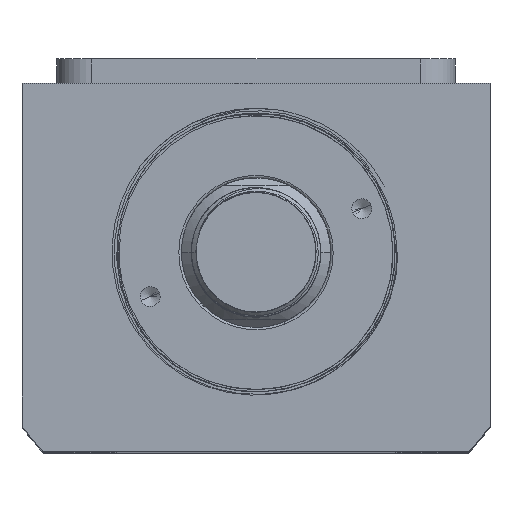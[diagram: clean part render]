
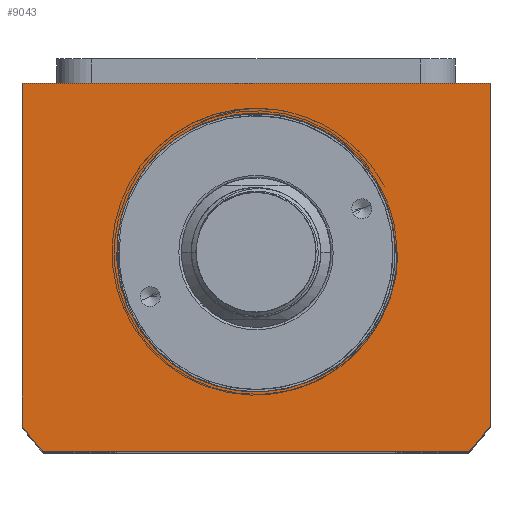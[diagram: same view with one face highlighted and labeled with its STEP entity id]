
A CAD part, top view. The second image highlights one B-rep face of the part: STEP entity #9043.
In plain terms, the highlighted planar face has unit normal (0, 0, 1).
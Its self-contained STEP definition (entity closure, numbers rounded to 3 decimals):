
#253 = DIRECTION ( 'NONE',  ( 0., 0., -1. ) ) ;
#271 = AXIS2_PLACEMENT_3D ( 'NONE', #4732, #253, #13652 ) ;
#431 = DIRECTION ( 'NONE',  ( 0., -1., 0. ) ) ;
#627 = LINE ( 'NONE', #18620, #9036 ) ;
#753 = DIRECTION ( 'NONE',  ( 0., 0., 1. ) ) ;
#904 = CARTESIAN_POINT ( 'NONE',  ( 28.449, -1.419, 80. ) ) ;
#968 = CARTESIAN_POINT ( 'NONE',  ( 27.555, -6.99, 80. ) ) ;
#1206 = CARTESIAN_POINT ( 'NONE',  ( 22.571, -17.007, 80. ) ) ;
#1264 = CARTESIAN_POINT ( 'NONE',  ( 18.667, -21.077, 80. ) ) ;
#1702 = ORIENTED_EDGE ( 'NONE', *, *, #14318, .T. ) ;
#1836 = VERTEX_POINT ( 'NONE', #5655 ) ;
#2182 = DIRECTION ( 'NONE',  ( 1., 0., 0. ) ) ;
#2247 = DIRECTION ( 'NONE',  ( 1., 0., 0. ) ) ;
#2743 = CARTESIAN_POINT ( 'NONE',  ( -47., -34.832, 80. ) ) ;
#3137 = VERTEX_POINT ( 'NONE', #16948 ) ;
#3555 = DIRECTION ( 'NONE',  ( 0., 0., 1. ) ) ;
#3571 = FACE_BOUND ( 'NONE', #6131, .T. ) ;
#3594 = DIRECTION ( 'NONE',  ( -1., 0., 0. ) ) ;
#3752 = CARTESIAN_POINT ( 'NONE',  ( 26.694, -9.657, 80. ) ) ;
#3770 = PLANE ( 'NONE',  #11697 ) ;
#3829 = DIRECTION ( 'NONE',  ( 0., 1., 0. ) ) ;
#4020 = ORIENTED_EDGE ( 'NONE', *, *, #13150, .T. ) ;
#4060 = CIRCLE ( 'NONE', #271, 28. ) ;
#4065 = CARTESIAN_POINT ( 'NONE',  ( 12.831, -24.945, 80. ) ) ;
#4131 = CARTESIAN_POINT ( 'NONE',  ( 10.89, -25.816, 80. ) ) ;
#4247 = CARTESIAN_POINT ( 'NONE',  ( 11.542, -25.544, 80. ) ) ;
#4278 = VERTEX_POINT ( 'NONE', #13377 ) ;
#4348 = ORIENTED_EDGE ( 'NONE', *, *, #17430, .F. ) ;
#4559 = LINE ( 'NONE', #5247, #18720 ) ;
#4732 = CARTESIAN_POINT ( 'NONE',  ( 0., 0., 80. ) ) ;
#4884 = AXIS2_PLACEMENT_3D ( 'NONE', #17373, #753, #2247 ) ;
#5056 = CARTESIAN_POINT ( 'NONE',  ( 42.688, -40., 80. ) ) ;
#5097 = VERTEX_POINT ( 'NONE', #5056 ) ;
#5247 = CARTESIAN_POINT ( 'NONE',  ( 0., 0., 80. ) ) ;
#5272 = DIRECTION ( 'NONE',  ( 0., 0., 1. ) ) ;
#5426 = ORIENTED_EDGE ( 'NONE', *, *, #17661, .T. ) ;
#5452 = CARTESIAN_POINT ( 'NONE',  ( 47., 34., 80. ) ) ;
#5655 = CARTESIAN_POINT ( 'NONE',  ( 28., 0., 80. ) ) ;
#5896 = VERTEX_POINT ( 'NONE', #16071 ) ;
#6131 = EDGE_LOOP ( 'NONE', ( #4348, #1702, #17140 ) ) ;
#6578 = EDGE_CURVE ( 'NONE', #19465, #5896, #13674, .T. ) ;
#6782 = CIRCLE ( 'NONE', #4884, 58.5 ) ;
#6784 = DIRECTION ( 'NONE',  ( 1., 0., 0. ) ) ;
#6981 = EDGE_CURVE ( 'NONE', #10275, #19465, #15326, .T. ) ;
#7273 = CARTESIAN_POINT ( 'NONE',  ( 18.129, -21.529, 80. ) ) ;
#7667 = VERTEX_POINT ( 'NONE', #10774 ) ;
#7980 = VECTOR ( 'NONE', #3829, 1000. ) ;
#8412 = CARTESIAN_POINT ( 'NONE',  ( 28.323, -2.832, 80. ) ) ;
#8539 = CARTESIAN_POINT ( 'NONE',  ( 28.233, -3.538, 80. ) ) ;
#8658 = CARTESIAN_POINT ( 'NONE',  ( 13.459, -24.624, 80. ) ) ;
#9036 = VECTOR ( 'NONE', #431, 1000. ) ;
#9043 = ADVANCED_FACE ( 'NONE', ( #3571, #16534 ), #3770, .T. ) ;
#9279 = VECTOR ( 'NONE', #2182, 1000. ) ;
#9504 = CARTESIAN_POINT ( 'NONE',  ( -47., 34., 80. ) ) ;
#10104 = EDGE_LOOP ( 'NONE', ( #17013, #18732, #15768, #5426, #4020, #13525 ) ) ;
#10135 = CARTESIAN_POINT ( 'NONE',  ( 24.178, -14.712, 80. ) ) ;
#10275 = VERTEX_POINT ( 'NONE', #17429 ) ;
#10495 = EDGE_CURVE ( 'NONE', #11321, #4278, #19310, .T. ) ;
#10774 = CARTESIAN_POINT ( 'NONE',  ( 10.232, -26.064, 80. ) ) ;
#11321 = VERTEX_POINT ( 'NONE', #2743 ) ;
#11697 = AXIS2_PLACEMENT_3D ( 'NONE', #14324, #5272, #6784 ) ;
#12506 = VECTOR ( 'NONE', #3594, 1000. ) ;
#12573 = CARTESIAN_POINT ( 'NONE',  ( 0., 0., 80. ) ) ;
#12691 = CARTESIAN_POINT ( 'NONE',  ( 42.688, -40., 80. ) ) ;
#12779 = CARTESIAN_POINT ( 'NONE',  ( 28.495, 0., 80. ) ) ;
#12840 = DIRECTION ( 'NONE',  ( -1., 0., 0. ) ) ;
#12915 = CARTESIAN_POINT ( 'NONE',  ( 28.485, -0.71, 80. ) ) ;
#13150 = EDGE_CURVE ( 'NONE', #5097, #10275, #6782, .T. ) ;
#13212 = CARTESIAN_POINT ( 'NONE',  ( 20.224, -19.631, 80. ) ) ;
#13377 = CARTESIAN_POINT ( 'NONE',  ( -42.688, -40., 80. ) ) ;
#13525 = ORIENTED_EDGE ( 'NONE', *, *, #6981, .T. ) ;
#13652 = DIRECTION ( 'NONE',  ( 1., 0., 0. ) ) ;
#13674 = LINE ( 'NONE', #9504, #12506 ) ;
#14100 = DIRECTION ( 'NONE',  ( 1., 0., 0. ) ) ;
#14318 = EDGE_CURVE ( 'NONE', #3137, #7667, #19283, .T. ) ;
#14324 = CARTESIAN_POINT ( 'NONE',  ( 0., 0., 80. ) ) ;
#14805 = CARTESIAN_POINT ( 'NONE',  ( 19.714, -20.129, 80. ) ) ;
#14871 = CARTESIAN_POINT ( 'NONE',  ( 21.684, -18.094, 80. ) ) ;
#15326 = LINE ( 'NONE', #5452, #7980 ) ;
#15768 = ORIENTED_EDGE ( 'NONE', *, *, #10495, .T. ) ;
#15824 = CARTESIAN_POINT ( 'NONE',  ( 26.163, -10.961, 80. ) ) ;
#16015 = AXIS2_PLACEMENT_3D ( 'NONE', #12573, #3555, #14100 ) ;
#16071 = CARTESIAN_POINT ( 'NONE',  ( -47., 34., 80. ) ) ;
#16534 = FACE_OUTER_BOUND ( 'NONE', #10104, .T. ) ;
#16948 = CARTESIAN_POINT ( 'NONE',  ( 28.495, 0., 80. ) ) ;
#17013 = ORIENTED_EDGE ( 'NONE', *, *, #6578, .T. ) ;
#17140 = ORIENTED_EDGE ( 'NONE', *, *, #18710, .T. ) ;
#17291 = EDGE_CURVE ( 'NONE', #5896, #11321, #627, .T. ) ;
#17318 = LINE ( 'NONE', #12691, #9279 ) ;
#17373 = CARTESIAN_POINT ( 'NONE',  ( 0., 0., 80. ) ) ;
#17429 = CARTESIAN_POINT ( 'NONE',  ( 47., -34.832, 80. ) ) ;
#17430 = EDGE_CURVE ( 'NONE', #3137, #1836, #4559, .T. ) ;
#17646 = CARTESIAN_POINT ( 'NONE',  ( 10.232, -26.064, 80. ) ) ;
#17661 = EDGE_CURVE ( 'NONE', #4278, #5097, #17318, .T. ) ;
#17708 = CARTESIAN_POINT ( 'NONE',  ( 15.3, -23.593, 80. ) ) ;
#18620 = CARTESIAN_POINT ( 'NONE',  ( -47., -34.832, 80. ) ) ;
#18710 = EDGE_CURVE ( 'NONE', #7667, #1836, #4060, .T. ) ;
#18720 = VECTOR ( 'NONE', #12840, 1000. ) ;
#18732 = ORIENTED_EDGE ( 'NONE', *, *, #17291, .T. ) ;
#18871 = CARTESIAN_POINT ( 'NONE',  ( 47., 34., 80. ) ) ;
#18963 = CARTESIAN_POINT ( 'NONE',  ( 27.887, -5.628, 80. ) ) ;
#19283 = B_SPLINE_CURVE_WITH_KNOTS ( 'NONE', 3,
 ( #12779, #12915, #904, #8412, #8539, #18963, #968, #3752, #15824, #19389, #10135, #1206, #14871, #13212, #14805, #1264, #7273, #19330, #17708, #8658, #4065, #4247, #4131, #17646 ),
 .UNSPECIFIED., .F., .F.,
 ( 4, 2, 2, 2, 2, 2, 2, 2, 2, 2, 2, 4 ),
 ( 0., 0.002, 0.004, 0.009, 0.013, 0.017, 0.021, 0.023, 0.026, 0.03, 0.032, 0.034 ),
 .UNSPECIFIED. ) ;
#19310 = CIRCLE ( 'NONE', #16015, 58.5 ) ;
#19330 = CARTESIAN_POINT ( 'NONE',  ( 16.467, -22.819, 80. ) ) ;
#19389 = CARTESIAN_POINT ( 'NONE',  ( 24.898, -13.504, 80. ) ) ;
#19465 = VERTEX_POINT ( 'NONE', #18871 ) ;
